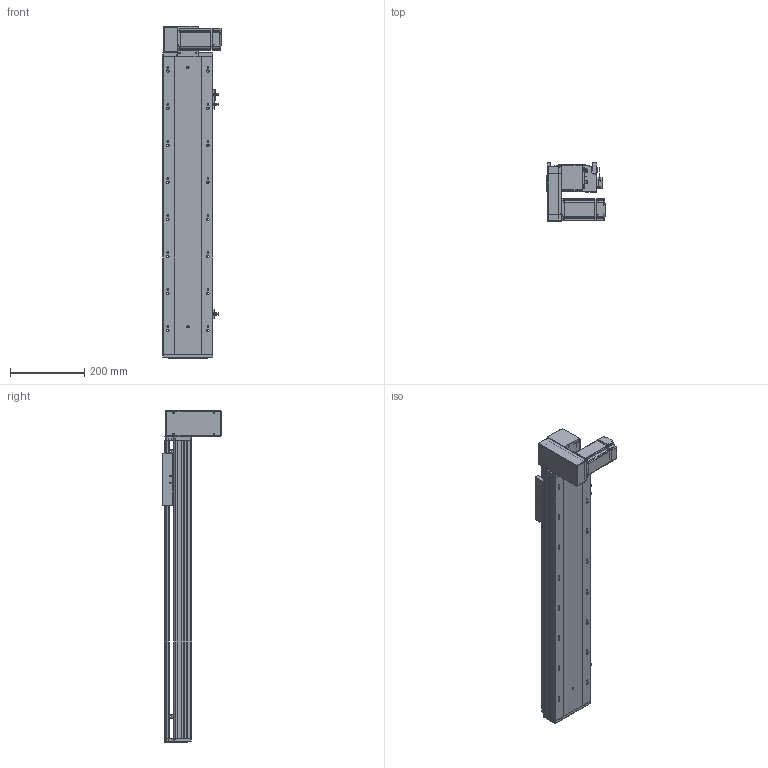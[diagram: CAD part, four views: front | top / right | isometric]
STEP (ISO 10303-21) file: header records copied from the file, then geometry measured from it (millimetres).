
FILE_DESCRIPTION (( 'STEP AP203' ), '1' );
FILE_NAME ('RY140-T-300-DL.SLDASM_550.step', '2021-03-01T06:05:47', ( '盈信电脑' ), ( '东莞市道滘镇水果街19号' ), 'SwSTEP 2.0', 'SolidWorks 2012', '' );
FILE_SCHEMA (( 'CONFIG_CONTROL_DESIGN' ));
Length unit declared in the file: millimetre
Products named in the file (18): RY140-T-300-DL倰第菁釱_550; RY140肮祭謫臏賑輸; RY140-T-300-DL倰第奻裔啣_550; RY140綴裔啣; RY120-T肮祭湍揤踡輸2; 覜茼ん672; RY120外置感应片(140共用）; RY140-T-300-DL.SLDASM_550; RY140-T翋肮謫裔啣; RY120-T蹟翐M4; 滅袉蝶18-10; RY140-T萇儂欶; 15; RY140-T萇儂假蚾啣; 侂狟400W侜督萇儂; RY120-T主同步轮轴承压盖; RY120-T肮祭湍揤踡輸1; RY140-T翋肮祭謫盓傅釱
Assembly tree (23 placements, depth 3):
  RY140-T-300-DL.SLDASM_550
    RY140-T-300-DL倰第菁釱_550
    RY140肮祭謫臏賑輸
    RY140-T-300-DL倰第奻裔啣_550
    RY140綴裔啣
    覜茼ん672  x3
    RY120外置感应片(140共用）
    RY120-T肮祭湍揤踡輸2
    RY120-T肮祭湍揤踡輸1
    RY140-T翋肮祭謫盓傅釱
    RY140-T萇儂假蚾啣
    侂狟400W侜督萇儂
      15
    RY120-T主同步轮轴承压盖
    RY120-T蹟翐M4  x4
    RY140-T萇儂欶
    滅袉蝶18-10  x2
    RY140-T翋肮謫裔啣
Bounding box: 157 x 158.5 x 896 mm (x, y, z)
Volume: 2916151.6 mm3; surface area: 1085908.3 mm2
Topology: 22 solids, 22 shells, 2634 faces, 7230 edges, 4660 vertices
Faces by surface type: plane 1385, cylinder 959, cone 190, bspline 100
Entity records: 83712 total; most frequent: CARTESIAN_POINT 20531, ORIENTED_EDGE 13004, DIRECTION 12300, EDGE_CURVE 6502, VERTEX_POINT 4259, LINE 4170, VECTOR 4170, AXIS2_PLACEMENT_3D 4065
